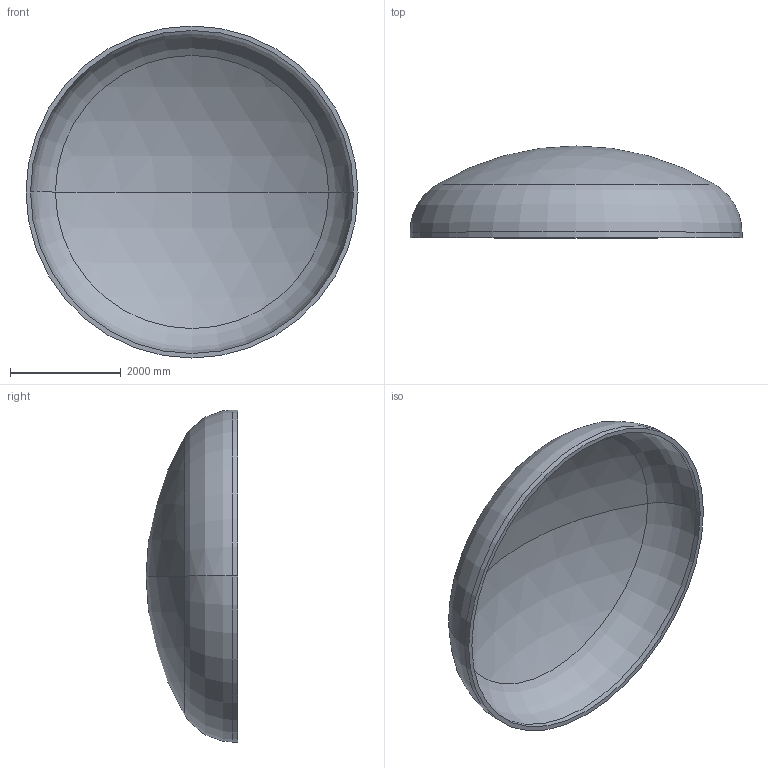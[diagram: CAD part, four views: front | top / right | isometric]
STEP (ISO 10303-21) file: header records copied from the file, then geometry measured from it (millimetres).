
FILE_DESCRIPTION (( 'STEP AP203' ), '1' );
FILE_NAME ('DIN 28013 Korbbogenform_-_Boden DIN 28013 - 6000 x 100 - I - s=82.step', '2016-07-04T10:38:17', ( '' ), ( '' ), 'SwSTEP 2.0', 'SolidWorks 2013', '' );
FILE_SCHEMA (( 'CONFIG_CONTROL_DESIGN' ));
Length unit declared in the file: millimetre
Products named in the file (1): DIN 28013 Korbbogenform_-_Boden DIN 28013 - 6000 x 100 - I - s=82
Bounding box: 6000 x 1658.81 x 6000 mm (x, y, z)
Volume: 3306739656.2 mm3; surface area: 82190778.5 mm2
Topology: 1 solids, 1 shells, 13 faces, 24 edges, 14 vertices
Faces by surface type: torus 4, cylinder 4, sphere 4, plane 1
Entity records: 407 total; most frequent: DIRECTION 72, CARTESIAN_POINT 52, ORIENTED_EDGE 48, AXIS2_PLACEMENT_3D 34, EDGE_CURVE 24, CIRCLE 20, EDGE_LOOP 14, VERTEX_POINT 14
